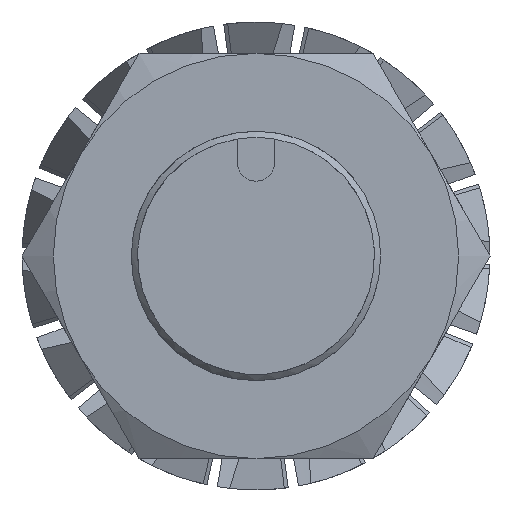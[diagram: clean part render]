
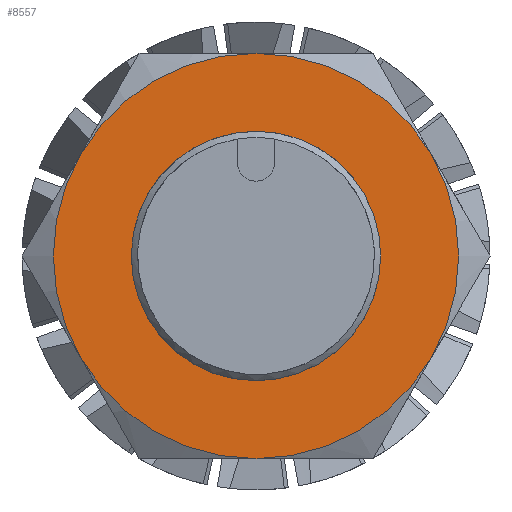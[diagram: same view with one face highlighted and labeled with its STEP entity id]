
A CAD part, left-side view. The second image highlights one B-rep face of the part: STEP entity #8557.
In plain terms, the highlighted planar face has unit normal (-1, 0, 0).
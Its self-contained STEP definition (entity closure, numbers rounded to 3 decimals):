
#8442=CARTESIAN_POINT('',(12.709,0.,4.));
#8443=VERTEX_POINT('',#8442);
#8444=CARTESIAN_POINT('',(12.709,0.,0.));
#8445=DIRECTION('',(-1.0,0.0,0.0));
#8446=DIRECTION('',(0.0,0.0,-1.0));
#8447=AXIS2_PLACEMENT_3D('',#8444,#8445,#8446);
#8448=CIRCLE('',#8447,4.);
#8449=EDGE_CURVE('',#8443,#8443,#8448,.T.);
#8493=CARTESIAN_POINT('',(12.709,0.,0.));
#8494=DIRECTION('',(1.0,0.0,0.0));
#8495=DIRECTION('',(0.0,0.0,-1.0));
#8496=AXIS2_PLACEMENT_3D('',#8493,#8494,#8495);
#8497=PLANE('',#8496);
#8498=CARTESIAN_POINT('',(12.709,-5.629,-3.25));
#8499=VERTEX_POINT('',#8498);
#8500=CARTESIAN_POINT('',(12.709,-5.629,3.25));
#8501=VERTEX_POINT('',#8500);
#8502=CARTESIAN_POINT('',(12.709,0.,0.));
#8503=DIRECTION('',(-1.0,0.0,0.0));
#8504=DIRECTION('',(0.0,1.0,0.0));
#8505=AXIS2_PLACEMENT_3D('',#8502,#8503,#8504);
#8506=CIRCLE('',#8505,6.5);
#8507=EDGE_CURVE('',#8499,#8501,#8506,.T.);
#8508=ORIENTED_EDGE('',*,*,#8507,.T.);
#8509=CARTESIAN_POINT('',(12.709,0.,6.5));
#8510=VERTEX_POINT('',#8509);
#8511=CARTESIAN_POINT('',(12.709,0.,0.));
#8512=DIRECTION('',(-1.0,0.0,0.0));
#8513=DIRECTION('',(0.0,1.0,0.0));
#8514=AXIS2_PLACEMENT_3D('',#8511,#8512,#8513);
#8515=CIRCLE('',#8514,6.5);
#8516=EDGE_CURVE('',#8501,#8510,#8515,.T.);
#8517=ORIENTED_EDGE('',*,*,#8516,.T.);
#8518=CARTESIAN_POINT('',(12.709,5.629,3.25));
#8519=VERTEX_POINT('',#8518);
#8520=CARTESIAN_POINT('',(12.709,0.,0.));
#8521=DIRECTION('',(-1.0,0.0,0.0));
#8522=DIRECTION('',(0.0,1.0,0.0));
#8523=AXIS2_PLACEMENT_3D('',#8520,#8521,#8522);
#8524=CIRCLE('',#8523,6.5);
#8525=EDGE_CURVE('',#8510,#8519,#8524,.T.);
#8526=ORIENTED_EDGE('',*,*,#8525,.T.);
#8527=CARTESIAN_POINT('',(12.709,5.629,-3.25));
#8528=VERTEX_POINT('',#8527);
#8529=CARTESIAN_POINT('',(12.709,0.,0.));
#8530=DIRECTION('',(-1.0,0.0,0.0));
#8531=DIRECTION('',(0.0,1.0,0.0));
#8532=AXIS2_PLACEMENT_3D('',#8529,#8530,#8531);
#8533=CIRCLE('',#8532,6.5);
#8534=EDGE_CURVE('',#8519,#8528,#8533,.T.);
#8535=ORIENTED_EDGE('',*,*,#8534,.T.);
#8536=CARTESIAN_POINT('',(12.709,0.,-6.5));
#8537=VERTEX_POINT('',#8536);
#8538=CARTESIAN_POINT('',(12.709,0.,0.));
#8539=DIRECTION('',(-1.0,0.0,0.0));
#8540=DIRECTION('',(0.0,1.0,0.0));
#8541=AXIS2_PLACEMENT_3D('',#8538,#8539,#8540);
#8542=CIRCLE('',#8541,6.5);
#8543=EDGE_CURVE('',#8528,#8537,#8542,.T.);
#8544=ORIENTED_EDGE('',*,*,#8543,.T.);
#8545=CARTESIAN_POINT('',(12.709,0.,0.));
#8546=DIRECTION('',(-1.0,0.0,0.0));
#8547=DIRECTION('',(0.0,1.0,0.0));
#8548=AXIS2_PLACEMENT_3D('',#8545,#8546,#8547);
#8549=CIRCLE('',#8548,6.5);
#8550=EDGE_CURVE('',#8537,#8499,#8549,.T.);
#8551=ORIENTED_EDGE('',*,*,#8550,.T.);
#8552=EDGE_LOOP('',(#8508,#8517,#8526,#8535,#8544,#8551));
#8553=FACE_OUTER_BOUND('',#8552,.T.);
#8554=ORIENTED_EDGE('',*,*,#8449,.F.);
#8555=EDGE_LOOP('',(#8554));
#8556=FACE_BOUND('',#8555,.T.);
#8557=ADVANCED_FACE('',(#8553,#8556),#8497,.F.);
